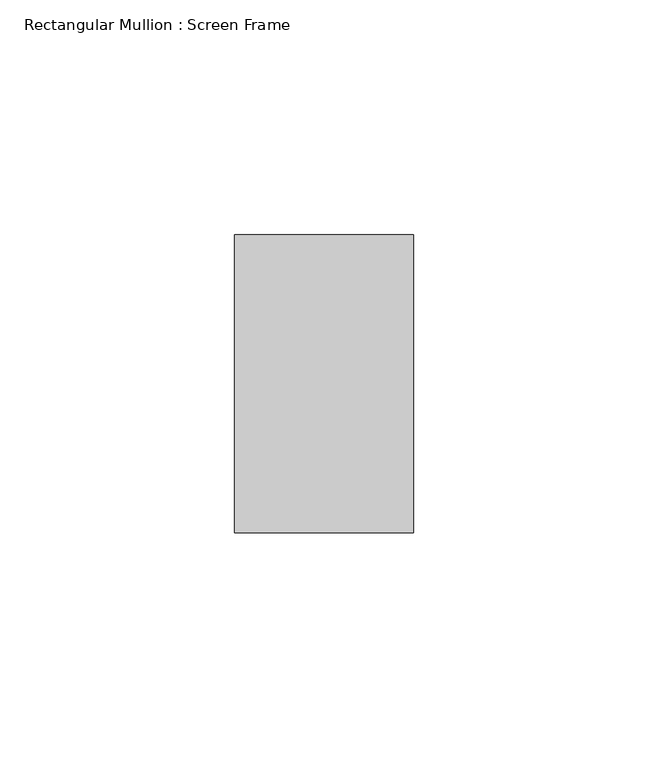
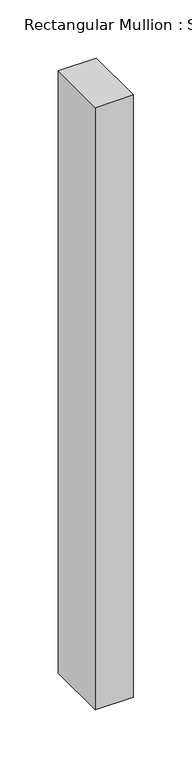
"""IFC4 building model written with IfcOpenShell, lengths in millimetres: member geometry, Rectangular Mullion : Screen Frame."""

from ifc_helpers import new_model, si_unit, frame, origin, place, context, project, spatial, polyline, outline, extrude, source, transform, mapped, element, save


def rectangular_mullion_screen_frame_c8940eb0(model_context):
    return source(origin(), model_context, "Body", "SweptSolid", [
        extrude(outline(polyline([(0.0, 31.75), (0.0, -31.75), (-38.1, -31.75), (-38.1, 31.75), (0.0, 31.75)])), frame((0.0, 0.0, -632.46), z_axis=(0.0, 0.0, 1.0), x_axis=(1.0, 0.0, 0.0)), (0.0, 0.0, 1.0), 632.46),
    ])


if __name__ == "__main__":
    model = new_model("IFC4")
    model_context = context("Model", 3, world=origin())
    ifc_project = project(units=[si_unit("LENGTHUNIT", "METRE", prefix="MILLI")], contexts=[model_context])
    site = spatial("IfcSite", under=ifc_project)
    building = spatial("IfcBuilding", under=site)
    placement = place(None, origin())
    rectangular_mullion_screen_frame_shape = rectangular_mullion_screen_frame_c8940eb0(model_context)
    element("IfcMember", 1, ObjectType="Rectangular Mullion : Screen Frame", at=placement, inside=building, context=model_context, shape_type="MappedRepresentation", body=[
        mapped(rectangular_mullion_screen_frame_shape, transform((0.0, 0.0, 0.0), x_axis=(1.0, 0.0, 0.0), y_axis=(0.0, 1.0, 0.0), z_axis=(0.0, 0.0, 1.0))),
    ])
    save(model, "model.ifc")
